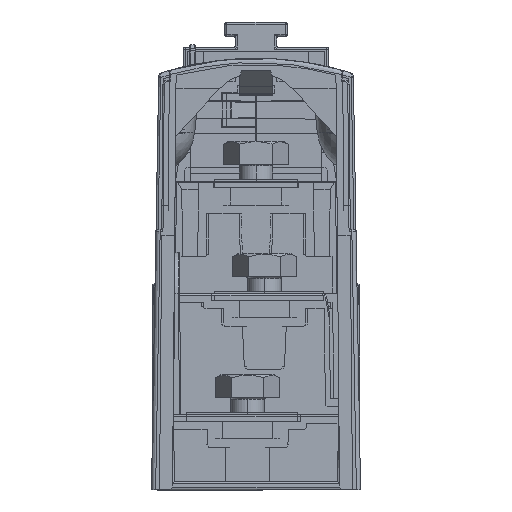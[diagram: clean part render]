
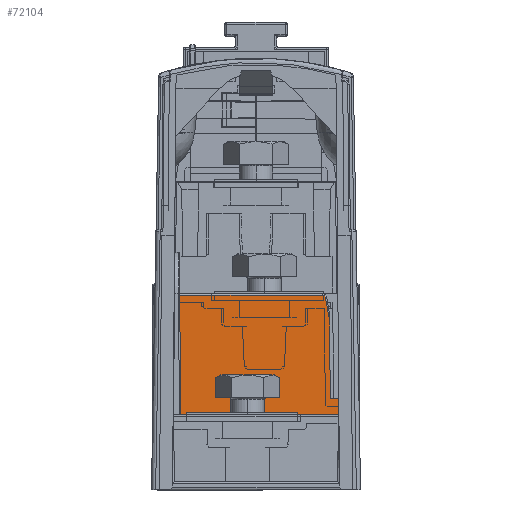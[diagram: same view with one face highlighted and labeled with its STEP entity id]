
A CAD part, left-side view. The second image highlights one B-rep face of the part: STEP entity #72104.
In plain terms, the highlighted planar face has unit normal (-1, 0, 0.009).
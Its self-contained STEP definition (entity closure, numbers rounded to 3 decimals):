
#22515 = VECTOR ( 'NONE', #221617, 1000. ) ;
#58250 = CARTESIAN_POINT ( 'NONE',  ( -152.266, 3.648, -2.5 ) ) ;
#65810 = LINE ( 'NONE', #65813, #145242 ) ;
#65813 = CARTESIAN_POINT ( 'NONE',  ( -152.218, 19.8, 3. ) ) ;
#65815 = DIRECTION ( 'NONE',  ( 0., 1., 0. ) ) ;
#72104 = ADVANCED_FACE ( 'NONE', ( #99259 ), #99267, .T. ) ;
#99259 = FACE_OUTER_BOUND ( 'NONE', #223156, .T. ) ;
#99267 = PLANE ( 'NONE',  #123349 ) ;
#99354 = CARTESIAN_POINT ( 'NONE',  ( -152., 19.8, 28. ) ) ;
#99357 = DIRECTION ( 'NONE',  ( -1., 0., 0.009 ) ) ;
#99362 = DIRECTION ( 'NONE',  ( 0.009, 0., 1. ) ) ;
#104754 = VERTEX_POINT ( 'NONE', #258444 ) ;
#105087 = VERTEX_POINT ( 'NONE', #258689 ) ;
#106114 = VERTEX_POINT ( 'NONE', #259295 ) ;
#106136 = VERTEX_POINT ( 'NONE', #259305 ) ;
#107093 = VERTEX_POINT ( 'NONE', #259812 ) ;
#108200 = VERTEX_POINT ( 'NONE', #255638 ) ;
#108404 = VERTEX_POINT ( 'NONE', #255697 ) ;
#109428 = VERTEX_POINT ( 'NONE', #256138 ) ;
#123349 = AXIS2_PLACEMENT_3D ( 'NONE', #99354, #99357, #99362 ) ;
#123641 = CARTESIAN_POINT ( 'NONE',  ( -152.253, 8.413, -1. ) ) ;
#127648 = CARTESIAN_POINT ( 'NONE',  ( -152.003, 18.297, 27.703 ) ) ;
#128257 = CARTESIAN_POINT ( 'NONE',  ( -152.003, -15.961, 27.703 ) ) ;
#128336 = CARTESIAN_POINT ( 'NONE',  ( -152.008, -16.65, 27.124 ) ) ;
#128681 = CARTESIAN_POINT ( 'NONE',  ( -152.057, -17.638, 21.52 ) ) ;
#141056 = CARTESIAN_POINT ( 'NONE',  ( -152.267, 2., -2.647 ) ) ;
#141062 = CARTESIAN_POINT ( 'NONE',  ( -152.267, 2.275, -2.647 ) ) ;
#141127 = CARTESIAN_POINT ( 'NONE',  ( -152.267, 2.549, -2.634 ) ) ;
#141131 = CARTESIAN_POINT ( 'NONE',  ( -152.267, 3.099, -2.585 ) ) ;
#141134 = CARTESIAN_POINT ( 'NONE',  ( -152.267, 3.376, -2.547 ) ) ;
#141137 = CARTESIAN_POINT ( 'NONE',  ( -152.266, 3.648, -2.5 ) ) ;
#145242 = VECTOR ( 'NONE', #65815, 1000. ) ;
#164981 = LINE ( 'NONE', #165011, #252608 ) ;
#165011 = CARTESIAN_POINT ( 'NONE',  ( -152.253, 66.109, -1. ) ) ;
#165012 = DIRECTION ( 'NONE',  ( 0., -1., 0. ) ) ;
#165045 = LINE ( 'NONE', #165047, #252668 ) ;
#165047 = CARTESIAN_POINT ( 'NONE',  ( -152.266, 8.4, -2.5 ) ) ;
#165049 = DIRECTION ( 'NONE',  ( 0., 1., 0. ) ) ;
#167861 = ORIENTED_EDGE ( 'NONE', *, *, #188408, .T. ) ;
#167865 = ORIENTED_EDGE ( 'NONE', *, *, #188607, .T. ) ;
#167870 = ORIENTED_EDGE ( 'NONE', *, *, #188364, .T. ) ;
#167874 = ORIENTED_EDGE ( 'NONE', *, *, #191450, .T. ) ;
#167878 = ORIENTED_EDGE ( 'NONE', *, *, #191194, .T. ) ;
#167881 = ORIENTED_EDGE ( 'NONE', *, *, #188810, .T. ) ;
#167884 = ORIENTED_EDGE ( 'NONE', *, *, #191190, .F. ) ;
#167887 = ORIENTED_EDGE ( 'NONE', *, *, #323788, .F. ) ;
#167890 = ORIENTED_EDGE ( 'NONE', *, *, #246333, .F. ) ;
#167895 = ORIENTED_EDGE ( 'NONE', *, *, #191171, .F. ) ;
#167900 = ORIENTED_EDGE ( 'NONE', *, *, #324323, .F. ) ;
#167904 = ORIENTED_EDGE ( 'NONE', *, *, #188627, .T. ) ;
#167908 = ORIENTED_EDGE ( 'NONE', *, *, #324320, .T. ) ;
#167912 = ORIENTED_EDGE ( 'NONE', *, *, #323833, .F. ) ;
#167915 = ORIENTED_EDGE ( 'NONE', *, *, #324902, .T. ) ;
#188364 = EDGE_CURVE ( 'NONE', #283916, #283909, #322654, .T. ) ;
#188408 = EDGE_CURVE ( 'NONE', #108200, #283949, #210147, .T. ) ;
#188607 = EDGE_CURVE ( 'NONE', #283949, #283916, #212119, .T. ) ;
#188627 = EDGE_CURVE ( 'NONE', #105087, #106136, #212231, .T. ) ;
#188810 = EDGE_CURVE ( 'NONE', #106114, #284661, #207926, .T. ) ;
#191171 = EDGE_CURVE ( 'NONE', #109428, #201572, #288603, .T. ) ;
#191190 = EDGE_CURVE ( 'NONE', #108404, #284661, #204295, .T. ) ;
#191194 = EDGE_CURVE ( 'NONE', #283817, #106114, #204264, .T. ) ;
#191450 = EDGE_CURVE ( 'NONE', #283909, #283817, #204901, .T. ) ;
#199630 = CARTESIAN_POINT ( 'NONE',  ( -152.267, 2., -2.647 ) ) ;
#201572 = VERTEX_POINT ( 'NONE', #199630 ) ;
#204228 = CARTESIAN_POINT ( 'NONE',  ( -152.266, 0.352, -2.5 ) ) ;
#204232 = CARTESIAN_POINT ( 'NONE',  ( -152.267, 0.9, -2.596 ) ) ;
#204244 = CARTESIAN_POINT ( 'NONE',  ( -152.267, 1.45, -2.647 ) ) ;
#204247 = CARTESIAN_POINT ( 'NONE',  ( -152.267, 2., -2.647 ) ) ;
#204264 = LINE ( 'NONE', #204305, #207364 ) ;
#204295 = LINE ( 'NONE', #204299, #207375 ) ;
#204299 = CARTESIAN_POINT ( 'NONE',  ( -151.999, 8.667, 28.097 ) ) ;
#204302 = DIRECTION ( 'NONE',  ( 0.009, 0.009, 1. ) ) ;
#204305 = CARTESIAN_POINT ( 'NONE',  ( -152., 18.3, 28. ) ) ;
#204310 = DIRECTION ( 'NONE',  ( -0.009, -0.009, -1. ) ) ;
#204881 = CARTESIAN_POINT ( 'NONE',  ( -152.003, 19.8, 27.703 ) ) ;
#204901 = LINE ( 'NONE', #204881, #207518 ) ;
#204927 = DIRECTION ( 'NONE',  ( 0., 1., 0. ) ) ;
#207364 = VECTOR ( 'NONE', #204310, 1000. ) ;
#207375 = VECTOR ( 'NONE', #204302, 1000. ) ;
#207518 = VECTOR ( 'NONE', #204927, 1000. ) ;
#207926 = LINE ( 'NONE', #207927, #221129 ) ;
#207927 = CARTESIAN_POINT ( 'NONE',  ( -152.253, 66.109, -1. ) ) ;
#207937 = DIRECTION ( 'NONE',  ( 0., -1., 0. ) ) ;
#209819 = CARTESIAN_POINT ( 'NONE',  ( -152.008, -16.65, 27.124 ) ) ;
#209823 = CARTESIAN_POINT ( 'NONE',  ( -152.005, -16.589, 27.474 ) ) ;
#209835 = CARTESIAN_POINT ( 'NONE',  ( -152.003, -16.316, 27.703 ) ) ;
#209838 = CARTESIAN_POINT ( 'NONE',  ( -152.003, -15.961, 27.703 ) ) ;
#210147 = LINE ( 'NONE', #210211, #220188 ) ;
#210211 = CARTESIAN_POINT ( 'NONE',  ( -151.997, -17.579, 28.326 ) ) ;
#210216 = DIRECTION ( 'NONE',  ( 0.009, 0.009, 1. ) ) ;
#212119 = LINE ( 'NONE', #212125, #220812 ) ;
#212125 = CARTESIAN_POINT ( 'NONE',  ( -152.008, -16.651, 27.122 ) ) ;
#212129 = DIRECTION ( 'NONE',  ( 0.009, 0.174, 0.985 ) ) ;
#212231 = LINE ( 'NONE', #212237, #220834 ) ;
#212237 = CARTESIAN_POINT ( 'NONE',  ( -152.267, -4.399, -2.576 ) ) ;
#212239 = DIRECTION ( 'NONE',  ( 0.009, -0.009, 1. ) ) ;
#215396 = B_SPLINE_CURVE_WITH_KNOTS ( 'NONE', 3,
 ( #141056, #141062, #141127, #141131, #141134, #141137 ),
 .UNSPECIFIED., .F., .F.,
 ( 4, 2, 4 ),
 ( 0.118, 0.119, 0.12 ),
 .UNSPECIFIED. ) ;
#220188 = VECTOR ( 'NONE', #210216, 1000. ) ;
#220812 = VECTOR ( 'NONE', #212129, 1000. ) ;
#220834 = VECTOR ( 'NONE', #212239, 1000. ) ;
#221129 = VECTOR ( 'NONE', #207937, 1000. ) ;
#221611 = LINE ( 'NONE', #221614, #22515 ) ;
#221614 = CARTESIAN_POINT ( 'NONE',  ( -152.266, 8.4, -2.5 ) ) ;
#221617 = DIRECTION ( 'NONE',  ( 0., 1., 0. ) ) ;
#222629 = CARTESIAN_POINT ( 'NONE',  ( -152.22, -22.198, 2.744 ) ) ;
#222646 = LINE ( 'NONE', #222629, #274474 ) ;
#222695 = DIRECTION ( 'NONE',  ( -0.009, 0.009, -1. ) ) ;
#223156 = EDGE_LOOP ( 'NONE', ( #167861, #167865, #167870, #167874, #167878, #167881, #167884, #167887, #167890, #167895, #167900, #167904, #167908, #167912, #167915 ) ) ;
#225486 = VERTEX_POINT ( 'NONE', #58250 ) ;
#246333 = EDGE_CURVE ( 'NONE', #201572, #225486, #215396, .T. ) ;
#252608 = VECTOR ( 'NONE', #165012, 1000. ) ;
#252668 = VECTOR ( 'NONE', #165049, 1000. ) ;
#255638 = CARTESIAN_POINT ( 'NONE',  ( -152.218, -17.8, 3. ) ) ;
#255697 = CARTESIAN_POINT ( 'NONE',  ( -152.266, 8.4, -2.5 ) ) ;
#256138 = CARTESIAN_POINT ( 'NONE',  ( -152.266, 0.352, -2.5 ) ) ;
#258444 = CARTESIAN_POINT ( 'NONE',  ( -152.253, -22.165, -1. ) ) ;
#258689 = CARTESIAN_POINT ( 'NONE',  ( -152.266, -4.4, -2.5 ) ) ;
#259295 = CARTESIAN_POINT ( 'NONE',  ( -152.253, 18.047, -1. ) ) ;
#259305 = CARTESIAN_POINT ( 'NONE',  ( -152.253, -4.413, -1. ) ) ;
#259812 = CARTESIAN_POINT ( 'NONE',  ( -152.218, -22.2, 3. ) ) ;
#274474 = VECTOR ( 'NONE', #222695, 1000. ) ;
#283817 = VERTEX_POINT ( 'NONE', #127648 ) ;
#283909 = VERTEX_POINT ( 'NONE', #128257 ) ;
#283916 = VERTEX_POINT ( 'NONE', #128336 ) ;
#283949 = VERTEX_POINT ( 'NONE', #128681 ) ;
#284661 = VERTEX_POINT ( 'NONE', #123641 ) ;
#288603 = B_SPLINE_CURVE_WITH_KNOTS ( 'NONE', 3,
 ( #204228, #204232, #204244, #204247 ),
 .UNSPECIFIED., .F., .F.,
 ( 4, 4 ),
 ( 0.117, 0.118 ),
 .UNSPECIFIED. ) ;
#322654 =( BOUNDED_CURVE ( )  B_SPLINE_CURVE ( 3, ( #209819, #209823, #209835, #209838 ),
 .UNSPECIFIED., .F., .T. ) 
 B_SPLINE_CURVE_WITH_KNOTS ( ( 4, 4 ),
 ( 4.887, 6.283 ),
 .UNSPECIFIED. ) 
 CURVE ( )  GEOMETRIC_REPRESENTATION_ITEM ( )  RATIONAL_B_SPLINE_CURVE ( ( 1., 0.844, 0.844, 1. ) ) 
 REPRESENTATION_ITEM ( '' )  );
#323788 = EDGE_CURVE ( 'NONE', #225486, #108404, #221611, .T. ) ;
#323833 = EDGE_CURVE ( 'NONE', #107093, #104754, #222646, .T. ) ;
#324320 = EDGE_CURVE ( 'NONE', #106136, #104754, #164981, .T. ) ;
#324323 = EDGE_CURVE ( 'NONE', #105087, #109428, #165045, .T. ) ;
#324902 = EDGE_CURVE ( 'NONE', #107093, #108200, #65810, .T. ) ;
